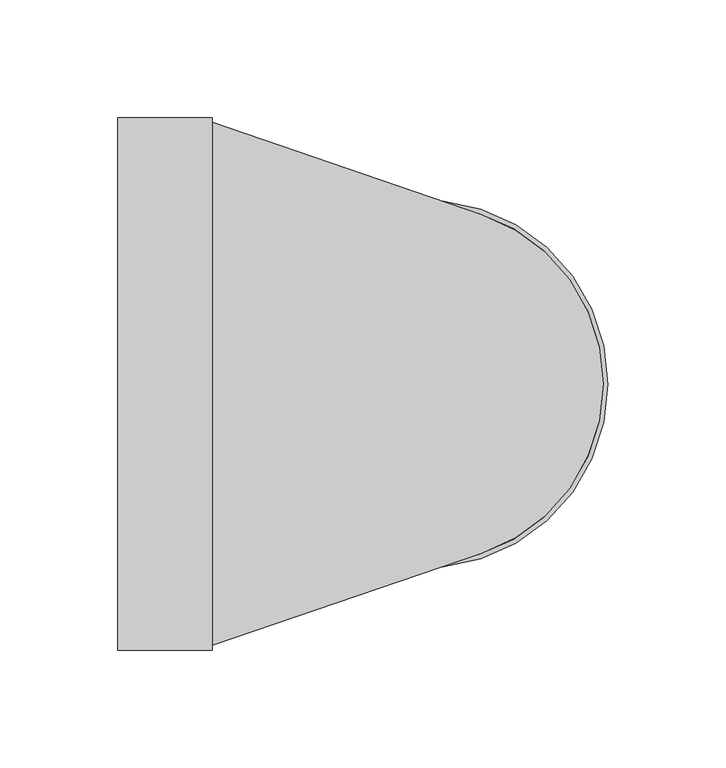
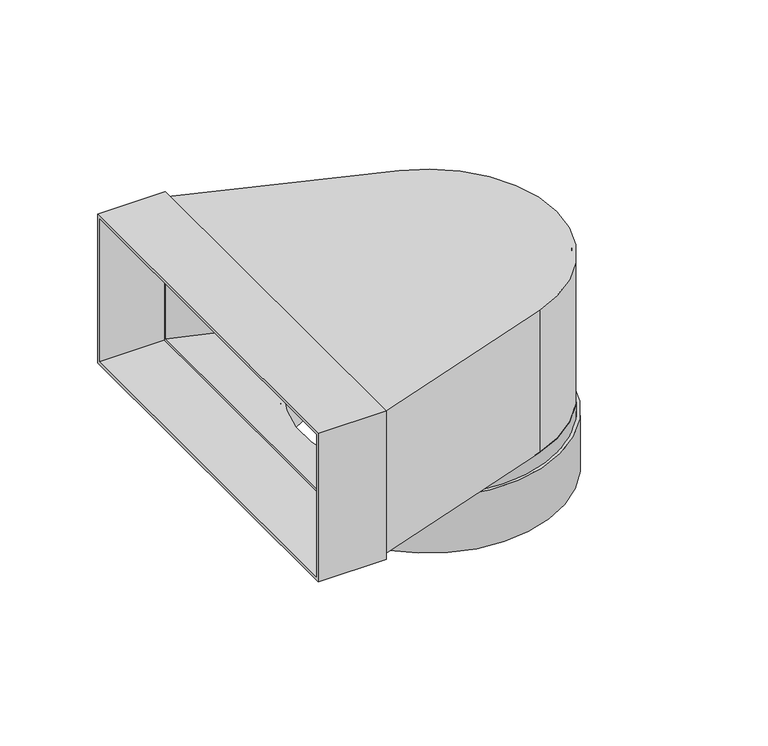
"""IFC4 building model written with IfcOpenShell, lengths in millimetres: proxy geometry, 11590720_D_DFK-AK90 : 28996417_D_11590720_DFK-AK90."""

from ifc_helpers import new_model, si_unit, point, frame, frame_2d, origin, place, context, project, spatial, polyline, circle_curve, trimmed, segment, composite_curve, outline, extrude, source, transform, mapped, element, save
from ifc_brep_helpers import plane_surface, cylinder_surface, revolved_surface, advanced_brep


def specialty_equipment_80599a69(model_context):
    return source(origin(), model_context, "Body", "SolidModel", [
        extrude(outline(polyline([(-113.0, 46.5), (113.0, 46.5), (113.0, -46.5), (-113.0, -46.5), (-113.0, 46.5)]), holes=[polyline([(111.0, 44.5), (-111.0, 44.5), (-111.0, -44.5), (111.0, -44.5), (111.0, 44.5)])]), frame((0.0, 0.0, 0.0), z_axis=(1.0, 0.0, 0.0), x_axis=(0.0, 1.0, 0.0)), (0.0, 0.0, 1.0), 40.0),
        extrude(outline(composite_curve([segment(trimmed(circle_curve(frame_2d((130.0, 0.0)), 76.0), [point((54.0, 0.0))], [point((206.0, 0.0))], False, "CARTESIAN"), True, "CONTINUOUS"), segment(trimmed(circle_curve(frame_2d((130.0, 0.0)), 76.0), [point((206.0, 0.0))], [point((54.0, 0.0))], False, "CARTESIAN"), True, "CONTINUOUS")], self_intersect=False), holes=[composite_curve([segment(trimmed(circle_curve(frame_2d((130.0, 0.0)), 74.0), [point((56.0, 0.0))], [point((204.0, 0.0))], True, "CARTESIAN"), True, "CONTINUOUS"), segment(trimmed(circle_curve(frame_2d((130.0, 0.0)), 74.0), [point((204.0, 0.0))], [point((56.0, 0.0))], True, "CARTESIAN"), True, "CONTINUOUS")], self_intersect=False)]), frame((0.0, 0.0, -55.0), z_axis=(0.0, 0.0, 1.0), x_axis=(1.0, 0.0, 0.0)), (0.0, 0.0, 1.0), 10.5),
        advanced_brep(
        [(206.0, 0.0, 44.5), (154.5362827, 71.9303193, 44.5), (40.0, 111.0, 44.5), (38.0, 111.0, 44.5), (38.0, -111.0, 44.5), (40.0, -111.0, 44.5), (154.5362827, -71.9303193, 44.5), (206.0, 0.0, -44.5), (154.5362827, 71.9303193, -44.5), (40.0, 111.0, -44.5), (38.0, 111.0, -44.5), (38.0, -111.0, -44.5), (38.0, 109.0, 42.5), (38.0, -109.0, 42.5), (38.0, -109.0, -42.5), (38.0, 109.0, -42.5), (40.0, -111.0, -44.5), (154.5362827, -71.9303193, -44.5), (130.0, 74.0, -44.5), (130.0, -74.0, -44.5), (153.890591, -70.0374161, 42.5), (70.0, -98.653489, 42.5), (70.0, 98.653489, 42.5), (153.890591, 70.0374161, 42.5), (204.0, 0.0, 42.5), (153.890591, 70.0374161, -42.5), (70.0, 98.653489, -42.5), (70.0, -98.653489, -42.5), (153.890591, -70.0374161, -42.5), (130.0, -74.0, -42.5), (130.0, 74.0, -42.5), (204.0, 0.0, 0.0), (204.0, 0.0, -42.5), (153.890591, -70.0374161, 0.0), (153.890591, 70.0374161, 0.0)],
        [
            (0, 1, circle_curve(frame((130.0, 0.0, 44.5), z_axis=(0.0, 0.0, 1.0), x_axis=(1.0, 0.0, 0.0)), 76.0)),
            (1, 2),
            (2, 3),
            (3, 4),
            (4, 5),
            (5, 6),
            (6, 0, circle_curve(frame((130.0, 0.0, 44.5), z_axis=(0.0, 0.0, 1.0), x_axis=(1.0, 0.0, 0.0)), 76.0)),
            (0, 7),
            (7, 8, circle_curve(frame((130.0, 0.0, -44.5), z_axis=(0.0, 0.0, 1.0), x_axis=(1.0, 0.0, 0.0)), 76.0)),
            (8, 1),
            (8, 9),
            (9, 2),
            (3, 10),
            (10, 11),
            (11, 4),
            (12, 13),
            (13, 14),
            (14, 15),
            (15, 12),
            (5, 16),
            (16, 17),
            (17, 6),
            (17, 7, circle_curve(frame((130.0, 0.0, -44.5), z_axis=(0.0, 0.0, 1.0), x_axis=(1.0, 0.0, 0.0)), 76.0)),
            (11, 16),
            (10, 9),
            (18, 19, circle_curve(frame((130.0, 0.0, -44.5), z_axis=(0.0, 0.0, 1.0), x_axis=(0.0, -1.0, 0.0)), 74.0)),
            (19, 18, circle_curve(frame((130.0, 0.0, -44.5), z_axis=(0.0, 0.0, 1.0), x_axis=(0.0, -1.0, 0.0)), 74.0)),
            (20, 21),
            (21, 13),
            (12, 22),
            (22, 23),
            (23, 24, circle_curve(frame((130.0, 0.0, 42.5), z_axis=(0.0, 0.0, -1.0), x_axis=(1.0, 0.0, 0.0)), 74.0)),
            (24, 20, circle_curve(frame((130.0, 0.0, 42.5), z_axis=(0.0, 0.0, -1.0), x_axis=(1.0, 0.0, 0.0)), 74.0)),
            (25, 26),
            (26, 15),
            (14, 27),
            (27, 28),
            (28, 29, circle_curve(frame((130.0, 0.0, -42.5), z_axis=(0.0, 0.0, -1.0), x_axis=(0.0, -1.0, 0.0)), 74.0)),
            (29, 30, circle_curve(frame((130.0, 0.0, -42.5), z_axis=(0.0, 0.0, -1.0), x_axis=(0.0, -1.0, 0.0)), 74.0)),
            (30, 25, circle_curve(frame((130.0, 0.0, -42.5), z_axis=(0.0, 0.0, -1.0), x_axis=(0.0, -1.0, 0.0)), 74.0)),
            (24, 31),
            (31, 32),
            (32, 28, circle_curve(frame((130.0, 0.0, -42.5), z_axis=(0.0, 0.0, -1.0), x_axis=(1.0, 0.0, 0.0)), 74.0)),
            (28, 33),
            (33, 20),
            (23, 34),
            (34, 25),
            (25, 32, circle_curve(frame((130.0, 0.0, -42.5), z_axis=(0.0, 0.0, -1.0), x_axis=(1.0, 0.0, 0.0)), 74.0)),
            (22, 26),
            (27, 21),
            (29, 19),
            (18, 30),
        ],
        [
            plane_surface(frame((206.0, 0.0, 44.5), z_axis=(0.0, 0.0, 1.0), x_axis=(0.0, 1.0, 0.0))),
            cylinder_surface(frame((130.0, 0.0, -53.0), z_axis=(0.0, 0.0, 1.0), x_axis=(1.0, 0.0, 0.0)), 76.0),
            plane_surface(frame((154.5362827, 71.9303193, 44.5), z_axis=(0.3228458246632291, 0.9464515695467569, 0.0), x_axis=(0.0, 0.0, -1.0))),
            plane_surface(frame((38.0, 111.6822237, 44.5), z_axis=(-1.0, 0.0, 0.0), x_axis=(0.0, 0.0, -1.0))),
            plane_surface(frame((38.0, -111.6822237, 44.5), z_axis=(0.3228458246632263, -0.9464515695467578, 0.0), x_axis=(0.0, 0.0, -1.0))),
            plane_surface(frame((210.008265, -111.0, -44.5), z_axis=(0.0, -1.0, 0.0), x_axis=(-1.0, 0.0, 0.0))),
            plane_surface(frame((210.008265, 111.0, -44.5), z_axis=(0.0, 0.0, -1.0), x_axis=(-1.0, 0.0, 0.0))),
            plane_surface(frame((210.008265, 111.0, 44.5), z_axis=(0.0, 1.0, 0.0), x_axis=(-1.0, 0.0, 0.0))),
            plane_surface(frame((204.0, 0.0, 42.5), z_axis=(0.0, 0.0, -1.0), x_axis=(0.0, 1.0, 0.0))),
            plane_surface(frame((204.0, 0.0, -42.5), z_axis=(0.0, 0.0, 1.0), x_axis=(0.0, -1.0, 0.0))),
            revolved_surface(polyline([(204.0, 0.0, 42.5), (204.0, 0.0, -42.5)]), (130.0, 0.0, -42.5), (0.0, 0.0, 1.0)),
            plane_surface(frame((153.890591, 70.0374161, 42.5), z_axis=(-0.32284582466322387, -0.9464515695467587, 0.0), x_axis=(0.0, 0.0, -1.0))),
            plane_surface(frame((70.0, -98.653489, 42.5), z_axis=(-0.32284582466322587, 0.946451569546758, 0.0), x_axis=(0.0, 0.0, -1.0))),
            plane_surface(frame((38.0, -109.0, 0.0), z_axis=(-0.3076472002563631, 0.9515004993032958, 0.0), x_axis=(0.0, 0.0, -1.0))),
            plane_surface(frame((38.0, 109.0, 0.0), z_axis=(-0.307647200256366, -0.9515004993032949, 0.0), x_axis=(0.0, 0.0, 1.0))),
            revolved_surface(polyline([(130.0, -74.0, -44.5), (130.0, -74.0, -42.5)]), (130.0, 0.0, 0.0), (0.0, 0.0, -1.0)),
        ],
        [
            (0, [[1, 2, 3, 4, 5, 6, 7]]),
            (1, [[-1, 8, 9, 10]]),
            (2, [[-2, -10, 11, 12]]),
            (3, [[-4, 13, 14, 15], [16, 17, 18, 19]]),
            (4, [[-6, 20, 21, 22]]),
            (1, [[-7, -22, 23, -8]]),
            (5, [[24, -20, -5, -15]]),
            (6, [[-24, -14, 25, -11, -9, -23, -21], [26, 27]]),
            (7, [[-25, -13, -3, -12]]),
            (8, [[28, 29, -16, 30, 31, 32, 33]]),
            (9, [[34, 35, -18, 36, 37, 38, 39, 40]]),
            (10, [[-33, 41, 42, 43, 44, 45]]),
            (10, [[-32, 46, 47, 48, -42, -41]]),
            (11, [[-31, 49, -34, -47, -46]]),
            (12, [[-28, -45, -44, -37, 50]]),
            (13, [[-29, -50, -36, -17]]),
            (14, [[-30, -19, -35, -49]]),
            (15, [[51, -26, 52, -39]]),
            (15, [[-51, -38, -43, -48, -40, -52, -27]]),
        ],
    ),
        extrude(outline(composite_curve([segment(trimmed(circle_curve(frame_2d((130.0, 0.0)), 78.0), [point((52.0, 0.0))], [point((208.0, 0.0))], False, "CARTESIAN"), True, "CONTINUOUS"), segment(trimmed(circle_curve(frame_2d((130.0, 0.0)), 78.0), [point((208.0, 0.0))], [point((52.0, 0.0))], False, "CARTESIAN"), True, "CONTINUOUS")], self_intersect=False), holes=[composite_curve([segment(trimmed(circle_curve(frame_2d((130.0, 0.0)), 76.0), [point((54.0, 0.0))], [point((206.0, 0.0))], True, "CARTESIAN"), True, "CONTINUOUS"), segment(trimmed(circle_curve(frame_2d((130.0, 0.0)), 76.0), [point((206.0, 0.0))], [point((54.0, 0.0))], True, "CARTESIAN"), True, "CONTINUOUS")], self_intersect=False)]), frame((0.0, 0.0, -88.0), z_axis=(0.0, 0.0, 1.0), x_axis=(1.0, 0.0, 0.0)), (0.0, 0.0, 1.0), 35.0),
    ])


if __name__ == "__main__":
    model = new_model("IFC4")
    model_context = context("Model", 3, world=origin())
    ifc_project = project(units=[si_unit("LENGTHUNIT", "METRE", prefix="MILLI")], contexts=[model_context])
    site = spatial("IfcSite", under=ifc_project)
    building = spatial("IfcBuilding", under=site)
    placement = place(None, origin())
    specialty_equipment_shape = specialty_equipment_80599a69(model_context)
    element("IfcBuildingElementProxy", 1, Name="11590720_D_DFK-AK90 : 28996417_D_11590720_DFK-AK90", ObjectType="11590720_D_DFK-AK90 : 28996417_D_11590720_DFK-AK90", at=placement, inside=building, context=model_context, shape_type="MappedRepresentation", body=[
        mapped(specialty_equipment_shape, transform((0.0, 0.0, 0.0), x_axis=(1.0, 0.0, 0.0), y_axis=(0.0, 1.0, 0.0), z_axis=(0.0, 0.0, 1.0))),
    ])
    save(model, "model.ifc")
